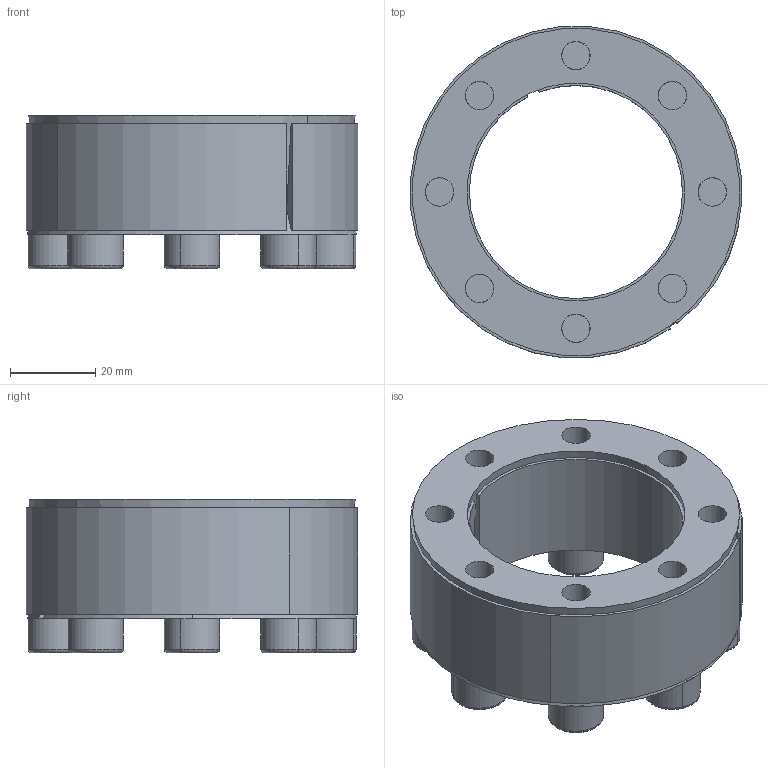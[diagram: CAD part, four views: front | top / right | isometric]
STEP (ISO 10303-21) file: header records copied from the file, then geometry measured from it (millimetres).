
FILE_DESCRIPTION (( 'STEP AP214' ), '1' );
FILE_NAME ('CONEX-L-50x78.step', '2013-04-06T13:22:59', ( 'Pc' ), ( '' ), 'SwSTEP 2.0', 'SolidWorks 2013', '' );
FILE_SCHEMA (( 'AUTOMOTIVE_DESIGN' ));
Length unit declared in the file: millimetre
Products named in the file (1): CONEX-L-50x78
Bounding box: 77.81 x 77.74 x 36.03 mm (x, y, z)
Volume: 75554.8 mm3; surface area: 49931 mm2
Topology: 11 solids, 11 shells, 289 faces, 663 edges, 396 vertices
Faces by surface type: plane 131, cylinder 78, cone 48, torus 32
Entity records: 11430 total; most frequent: DIRECTION 1532, CARTESIAN_POINT 1366, ORIENTED_EDGE 1294, EDGE_CURVE 647, AXIS2_PLACEMENT_3D 603, VERTEX_POINT 396, EDGE_LOOP 347, VECTOR 326
